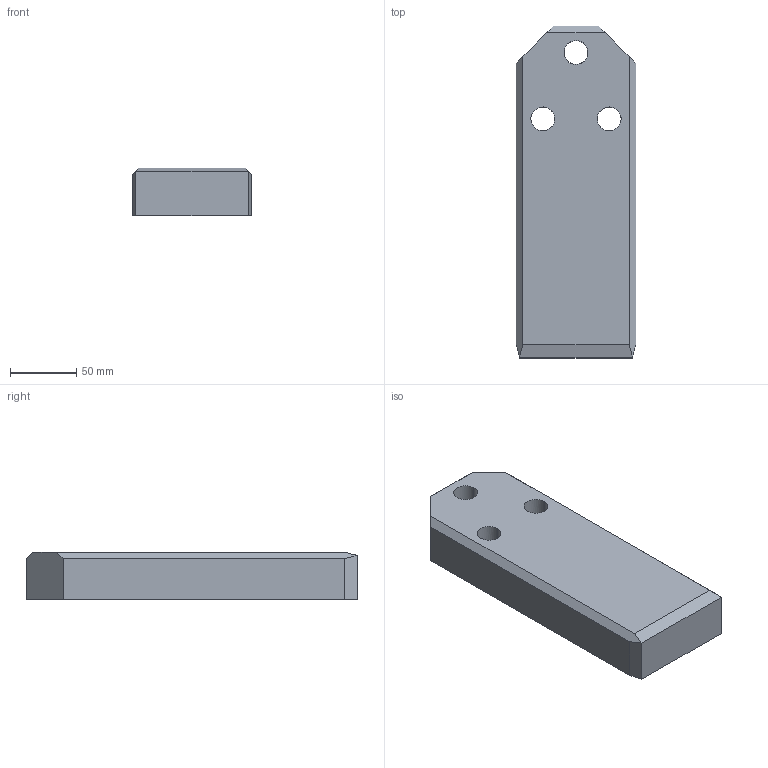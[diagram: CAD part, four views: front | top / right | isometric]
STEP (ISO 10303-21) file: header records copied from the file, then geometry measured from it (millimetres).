
FILE_DESCRIPTION(('CATIA V5 STEP Exchange'),'2;1');
FILE_NAME('C:\Users\borellobunino\Desktop\3D X SITO CF\A927\GSB_OILLESS_G2290509025036\STEP-2.03\A927-90X250X36.stp','2019-07-15T18:11:13+00:00',('none'),('none'),'CATIA Version 5 Release 20 GA (IN-10)','CATIA V5 STEP AP203','none');
FILE_SCHEMA(('CONFIG_CONTROL_DESIGN'));
Length unit declared in the file: millimetre
Products named in the file (1): A927-90X250X36
Bounding box: 90 x 250 x 36 mm (x, y, z)
Volume: 728352.5 mm3; surface area: 70756.5 mm2
Topology: 1 solids, 1 shells, 35 faces, 84 edges, 54 vertices
Faces by surface type: plane 17, cylinder 12, cone 6
Entity records: 1296 total; most frequent: CARTESIAN_POINT 450, ORIENTED_EDGE 168, DIRECTION 142, EDGE_CURVE 84, AXIS2_PLACEMENT_3D 54, VECTOR 54, LINE 54, VERTEX_POINT 54
